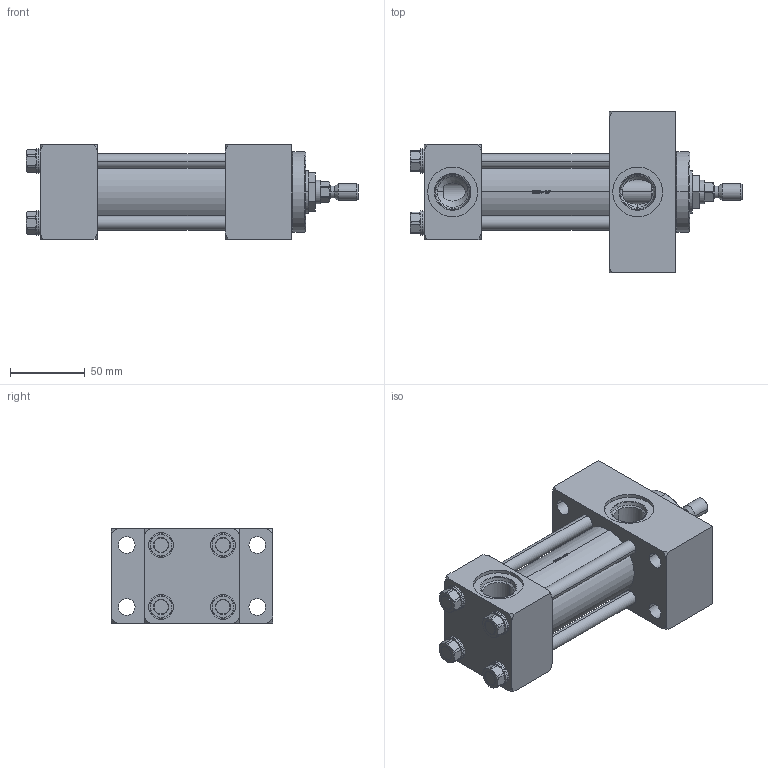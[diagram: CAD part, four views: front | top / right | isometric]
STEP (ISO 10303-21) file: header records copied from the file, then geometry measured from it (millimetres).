
FILE_DESCRIPTION (( 'STEP AP214' ), '1' );
FILE_NAME ('1.50JJ2HHNAT114A2.000.step', '2026-03-26T21:19:57', ( '' ), ( '' ), 'SwSTEP 2.0', 'SolidWorks 2023', '' );
FILE_SCHEMA (( 'AUTOMOTIVE_DESIGN' ));
Length unit declared in the file: inch
Products named in the file (1): 1.50JJ2HHNAT114A2.000
Bounding box: 222.25 x 107.95 x 63.5 mm (x, y, z)
Volume: 565101.9 mm3; surface area: 151374.7 mm2
Topology: 42 solids, 42 shells, 1848 faces, 4892 edges, 3139 vertices
Faces by surface type: plane 822, cylinder 756, cone 230, bspline 32, torus 8
Entity records: 84862 total; most frequent: CARTESIAN_POINT 15564, ORIENTED_EDGE 9704, DIRECTION 9120, EDGE_CURVE 4852, AXIS2_PLACEMENT_3D 3529, VERTEX_POINT 3139, LINE 2062, VECTOR 2062
